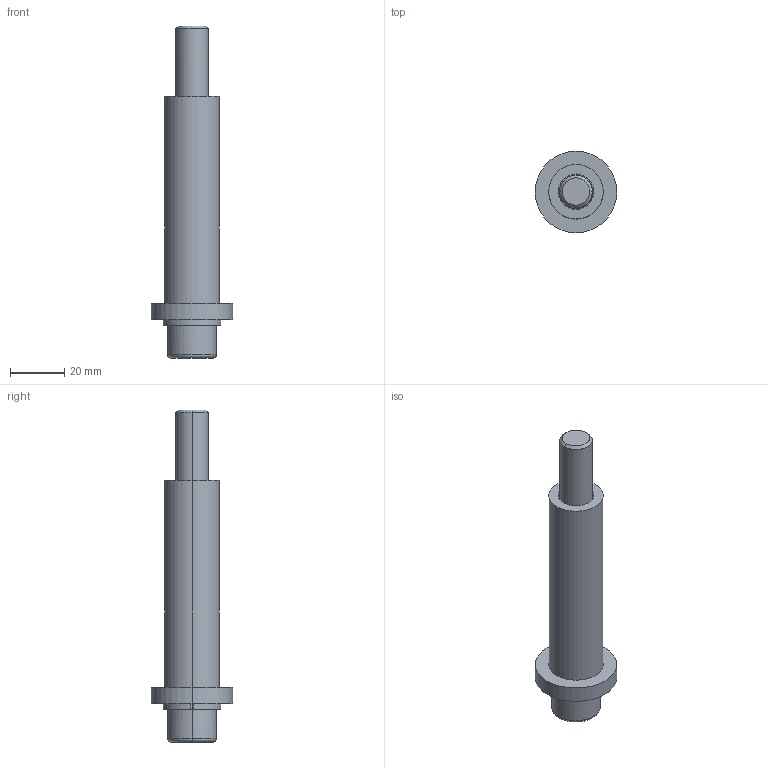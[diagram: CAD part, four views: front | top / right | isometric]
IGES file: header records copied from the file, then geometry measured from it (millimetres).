
Start section: START RECORD GO HERE.
Global section: file name: M312-03-12.igs; native system: DASSAULT SYSTEMES CATIA V5 R20 - www.3ds.com; preprocessor: CATIA Version 5 Release 20 ; author: Utente; organization: NB04-ASUS; date: 20201204.202239; units: millimetre
Bounding box: 30 x 30 x 122 mm (x, y, z)
Surface area: 15436.4 mm2 (no closed solid volume)
Topology: 0 solids, 0 shells, 50 faces, 226 edges, 224 vertices
Faces by surface type: revolution 28, plane 22
